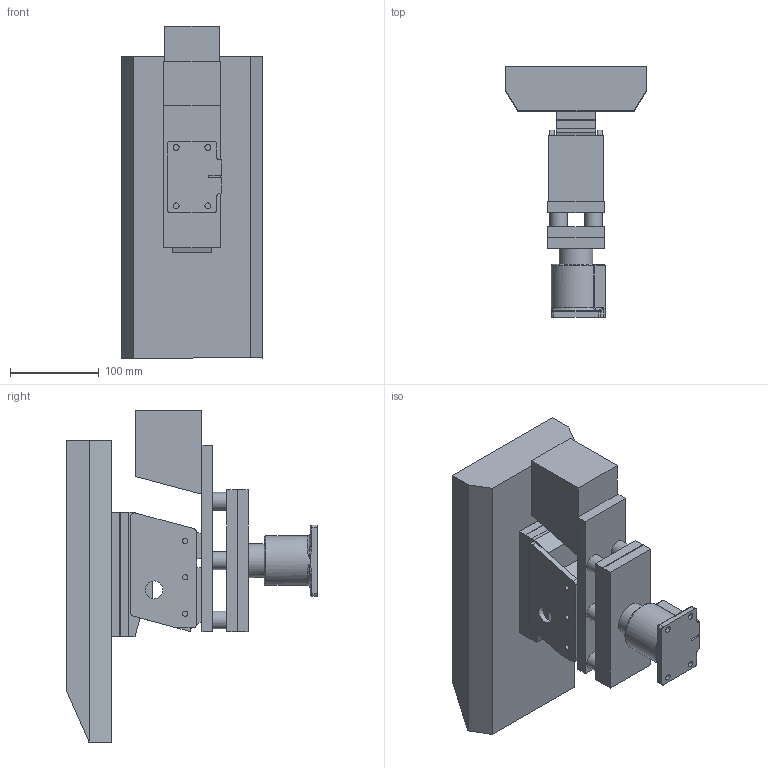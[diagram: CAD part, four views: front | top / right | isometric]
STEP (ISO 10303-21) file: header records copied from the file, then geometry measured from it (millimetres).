
FILE_DESCRIPTION(/* description */ (''),/* implementation_level */ '2;1');
FILE_NAME(/* name */ 'K:\0_도면 변환 요청의건_220317\Hopper_AIVE3.0.stp',/* time_stamp */ '2022-03-17T18:30:19+09:00',/* author */ ('USER'),/* organization */ (''),/* preprocessor_version */ 'ST-DEVELOPER v18',/* originating_system */ 'Autodesk Inventor 2020',/* authorisation */ '');
FILE_SCHEMA (('AUTOMOTIVE_DESIGN { 1 0 10303 214 3 1 1 }'));
Length unit declared in the file: millimetre
Products named in the file (4): Hopper; Hopper-01; Hopper-02; Hopper-03
Assembly tree (4 placements, depth 2):
  Hopper
    Hopper-01
    Hopper-02
    Hopper-03  x2
Bounding box: 160 x 282.53 x 374.5 mm (x, y, z)
Volume: 1838414.6 mm3; surface area: 398228.5 mm2
Topology: 5 solids, 5 shells, 300 faces, 801 edges, 512 vertices
Faces by surface type: plane 223, cylinder 58, bspline 16, torus 3
Full cylindrical faces by diameter (mm): 6 x6, 6.8 x4, 20 x8, 38 x1
Entity records: 9618 total; most frequent: CARTESIAN_POINT 2110, ORIENTED_EDGE 1538, DIRECTION 1462, EDGE_CURVE 769, LINE 604, VECTOR 604, VERTEX_POINT 496, AXIS2_PLACEMENT_3D 429
